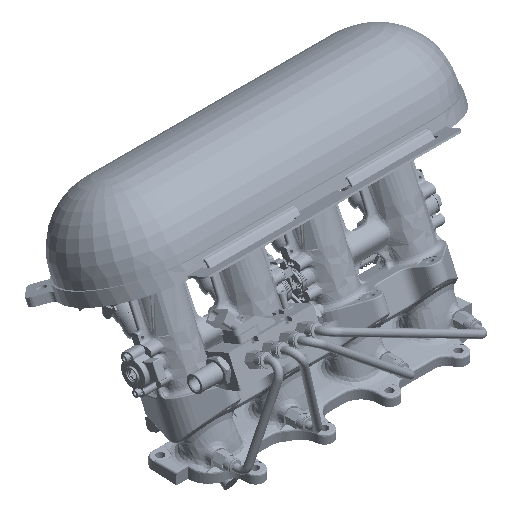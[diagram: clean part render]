
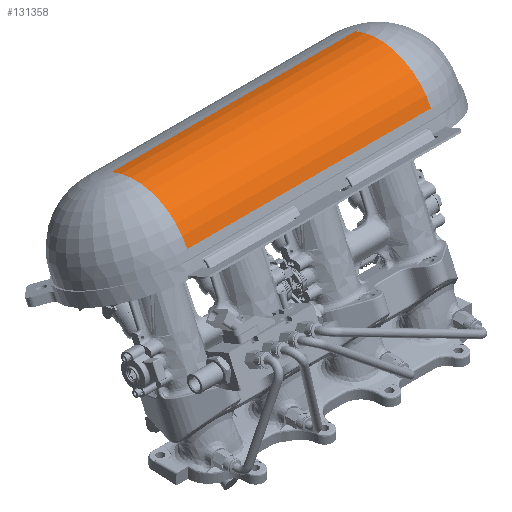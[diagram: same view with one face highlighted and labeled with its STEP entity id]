
A CAD part, isometric view. The second image highlights one B-rep face of the part: STEP entity #131358.
In plain terms, the highlighted cylindrical face has radius 67.5 mm (diameter 135 mm), a partial arc.
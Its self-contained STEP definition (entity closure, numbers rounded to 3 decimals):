
#6750 = DIRECTION ( 'NONE',  ( -1., 0., 0. ) ) ;
#9200 = ORIENTED_EDGE ( 'NONE', *, *, #70118, .T. ) ;
#21768 = FACE_OUTER_BOUND ( 'NONE', #127429, .T. ) ;
#23405 = LINE ( 'NONE', #84638, #179622 ) ;
#25075 = CARTESIAN_POINT ( 'NONE',  ( -144., 107.132, 251.685 ) ) ;
#28869 = EDGE_CURVE ( 'NONE', #189100, #144260, #23405, .T. ) ;
#30471 = EDGE_CURVE ( 'NONE', #118501, #89991, #59307, .T. ) ;
#40053 = CARTESIAN_POINT ( 'NONE',  ( 144., 79.677, 190.021 ) ) ;
#56048 = DIRECTION ( 'NONE',  ( 0., -0.407, -0.914 ) ) ;
#59307 = LINE ( 'NONE', #120486, #138727 ) ;
#67936 = DIRECTION ( 'NONE',  ( 0., 0.407, 0.914 ) ) ;
#70118 = EDGE_CURVE ( 'NONE', #118501, #144260, #160949, .T. ) ;
#74464 = AXIS2_PLACEMENT_3D ( 'NONE', #132259, #193472, #56048 ) ;
#83008 = CYLINDRICAL_SURFACE ( 'NONE', #92031, 67.5 ) ;
#84295 = ORIENTED_EDGE ( 'NONE', *, *, #162491, .F. ) ;
#84638 = CARTESIAN_POINT ( 'NONE',  ( -144., 18.012, 217.475 ) ) ;
#85305 = AXIS2_PLACEMENT_3D ( 'NONE', #40053, #101257, #162471 ) ;
#89991 = VERTEX_POINT ( 'NONE', #111198 ) ;
#92031 = AXIS2_PLACEMENT_3D ( 'NONE', #144194, #6750, #67936 ) ;
#101257 = DIRECTION ( 'NONE',  ( 1., 0., 0. ) ) ;
#111198 = CARTESIAN_POINT ( 'NONE',  ( 144., 107.132, 251.685 ) ) ;
#111427 = CARTESIAN_POINT ( 'NONE',  ( -144., 18.012, 217.475 ) ) ;
#118501 = VERTEX_POINT ( 'NONE', #25075 ) ;
#120486 = CARTESIAN_POINT ( 'NONE',  ( 144., 107.132, 251.685 ) ) ;
#127429 = EDGE_LOOP ( 'NONE', ( #9200, #168215, #84295, #139691 ) ) ;
#131358 = ADVANCED_FACE ( 'NONE', ( #21768 ), #83008, .T. ) ;
#132259 = CARTESIAN_POINT ( 'NONE',  ( -144., 79.677, 190.021 ) ) ;
#132328 = CARTESIAN_POINT ( 'NONE',  ( 144., 18.012, 217.475 ) ) ;
#138727 = VECTOR ( 'NONE', #181706, 1000. ) ;
#139691 = ORIENTED_EDGE ( 'NONE', *, *, #30471, .F. ) ;
#144194 = CARTESIAN_POINT ( 'NONE',  ( 144., 79.677, 190.021 ) ) ;
#144260 = VERTEX_POINT ( 'NONE', #111427 ) ;
#145836 = DIRECTION ( 'NONE',  ( -1., 0., 0. ) ) ;
#160949 = CIRCLE ( 'NONE', #74464, 67.5 ) ;
#162471 = DIRECTION ( 'NONE',  ( 0., -0.407, -0.914 ) ) ;
#162491 = EDGE_CURVE ( 'NONE', #89991, #189100, #171776, .T. ) ;
#168215 = ORIENTED_EDGE ( 'NONE', *, *, #28869, .F. ) ;
#171776 = CIRCLE ( 'NONE', #85305, 67.5 ) ;
#179622 = VECTOR ( 'NONE', #145836, 1000. ) ;
#181706 = DIRECTION ( 'NONE',  ( 1., 0., 0. ) ) ;
#189100 = VERTEX_POINT ( 'NONE', #132328 ) ;
#193472 = DIRECTION ( 'NONE',  ( 1., 0., 0. ) ) ;
